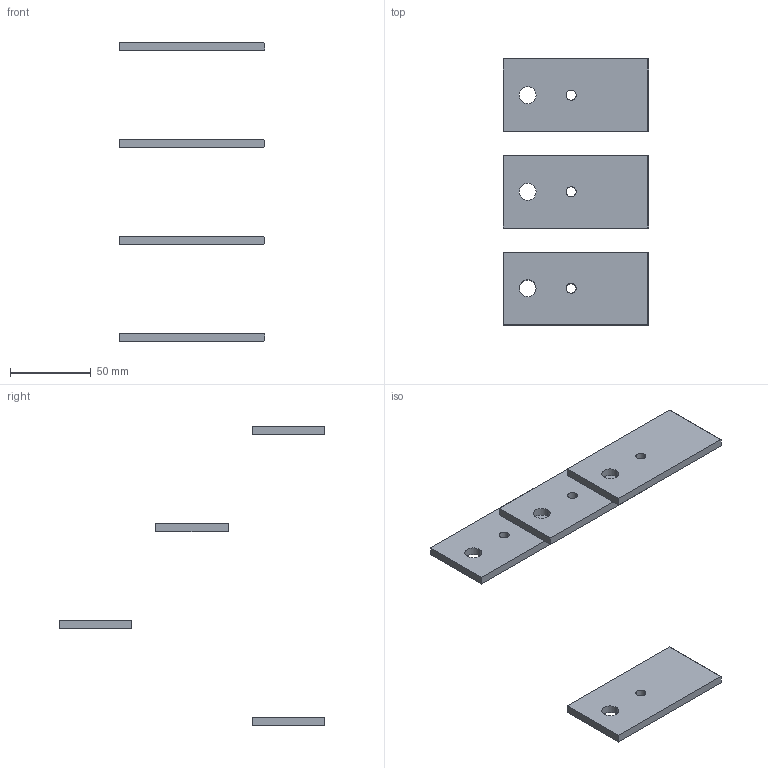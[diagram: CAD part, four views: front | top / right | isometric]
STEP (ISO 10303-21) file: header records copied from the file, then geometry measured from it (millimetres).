
FILE_DESCRIPTION(('CAx-IF Rec.Pracs.---Model Styling and Organization---1.2---2011-12-15','CAx-IF Rec.Pracs.---Geometric and Assembly Validation Properties---4.1---2014-06-16','CAx-IF Rec.Pracs.---PMI Polyline Presentation---2.0---2013-05-24'),'2;1');
FILE_NAME('R5M2WBB4P6.stp','2021-05-05T11:54:02+03:00',(''),(''),'STEP Interface 4.4 by CT CoreTechnologie','3D_Evolution4.4 by CT CoreTechnologie','');
FILE_SCHEMA(('AUTOMOTIVE_DESIGN { 1 0 10303 214 1 1 1 1 }'));
Length unit declared in the file: millimetre
Products named in the file (2): R5M2WBB4P6; RB.1291.00.00.0_-01
Assembly tree (4 placements, depth 2):
  R5M2WBB4P6
    RB.1291.00.00.0_-01  x4
Bounding box: 90 x 165 x 185 mm (x, y, z)
Surface area: 37807.6 mm2 (no closed solid volume)
Topology: 0 solids, 4 shells, 48 faces, 120 edges, 80 vertices
Faces by surface type: plane 32, cylinder 16
Entity records: 503 total; most frequent: DIRECTION 72, CARTESIAN_POINT 67, ORIENTED_EDGE 60, EDGE_CURVE 30, AXIS2_PLACEMENT_3D 25, VECTOR 22, LINE 22, VERTEX_POINT 20
